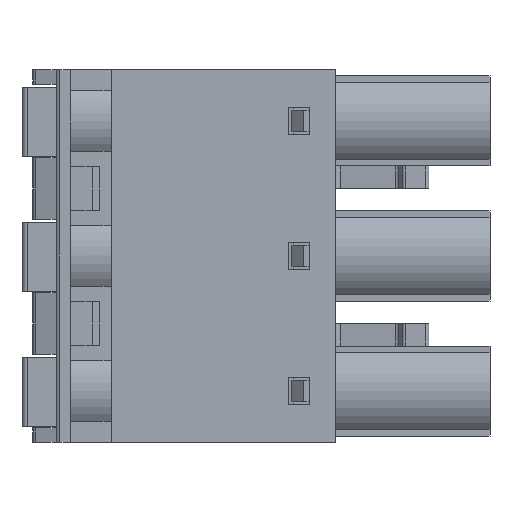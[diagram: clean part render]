
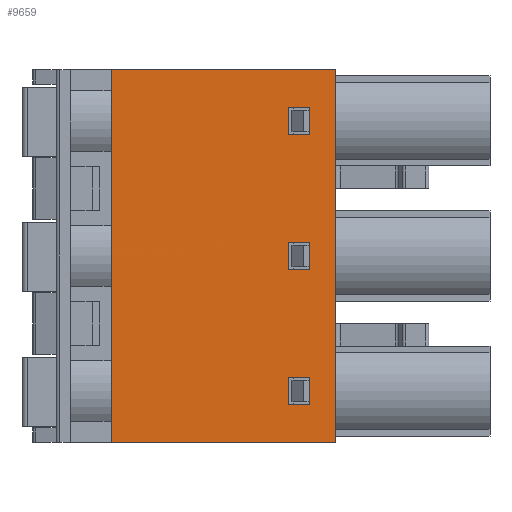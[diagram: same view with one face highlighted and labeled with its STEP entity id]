
A CAD part, left-side view. The second image highlights one B-rep face of the part: STEP entity #9659.
In plain terms, the highlighted planar face has unit normal (-1, 0, 0).
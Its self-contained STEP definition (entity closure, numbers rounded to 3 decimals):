
#412=DIRECTION('',(0.,1.,0.));
#413=VECTOR('',#412,12.45);
#414=CARTESIAN_POINT('',(-7.5,0.,32.85));
#415=LINE('',#414,#413);
#2345=CARTESIAN_POINT('',(-7.5,12.45,22.549));
#2346=CARTESIAN_POINT('',(-7.5,12.45,22.543));
#2347=CARTESIAN_POINT('',(-7.5,12.45,22.534));
#2348=CARTESIAN_POINT('',(-7.5,12.45,22.517));
#2349=CARTESIAN_POINT('',(-7.5,12.45,22.506));
#2350=CARTESIAN_POINT('',(-7.5,12.45,22.5));
#2509=DIRECTION('',(0.,-1.,0.));
#2510=VECTOR('',#2509,1.2);
#2511=CARTESIAN_POINT('',(-7.5,2.6,15.75));
#2512=LINE('',#2511,#2510);
#2525=DIRECTION('',(0.,0.,-1.));
#2526=VECTOR('',#2525,20.7);
#2527=CARTESIAN_POINT('',(-7.5,0.,32.85));
#2528=LINE('',#2527,#2526);
#2529=DIRECTION('',(0.,1.,0.));
#2530=VECTOR('',#2529,12.45);
#2531=CARTESIAN_POINT('',(-7.5,0.,12.15));
#2532=LINE('',#2531,#2530);
#2533=DIRECTION('',(0.,0.,1.));
#2534=VECTOR('',#2533,7.5);
#2535=CARTESIAN_POINT('',(-7.5,12.45,15.));
#2536=LINE('',#2535,#2534);
#2537=DIRECTION('',(0.,0.,1.));
#2538=VECTOR('',#2537,7.451);
#2539=CARTESIAN_POINT('',(-7.5,12.45,22.549));
#2540=LINE('',#2539,#2538);
#2541=DIRECTION('',(0.,0.,-1.));
#2542=VECTOR('',#2541,1.5);
#2543=CARTESIAN_POINT('',(-7.5,2.6,23.25));
#2544=LINE('',#2543,#2542);
#2545=DIRECTION('',(0.,-1.,0.));
#2546=VECTOR('',#2545,1.2);
#2547=CARTESIAN_POINT('',(-7.5,2.6,21.75));
#2548=LINE('',#2547,#2546);
#2549=DIRECTION('',(0.,0.,1.));
#2550=VECTOR('',#2549,1.5);
#2551=CARTESIAN_POINT('',(-7.5,1.4,21.75));
#2552=LINE('',#2551,#2550);
#2553=DIRECTION('',(0.,0.,-1.));
#2554=VECTOR('',#2553,1.5);
#2555=CARTESIAN_POINT('',(-7.5,2.6,15.75));
#2556=LINE('',#2555,#2554);
#2557=DIRECTION('',(0.,-1.,0.));
#2558=VECTOR('',#2557,1.2);
#2559=CARTESIAN_POINT('',(-7.5,2.6,14.25));
#2560=LINE('',#2559,#2558);
#2561=DIRECTION('',(0.,0.,-1.));
#2562=VECTOR('',#2561,1.5);
#2563=CARTESIAN_POINT('',(-7.5,2.6,30.75));
#2564=LINE('',#2563,#2562);
#2565=DIRECTION('',(0.,-1.,0.));
#2566=VECTOR('',#2565,1.2);
#2567=CARTESIAN_POINT('',(-7.5,2.6,29.25));
#2568=LINE('',#2567,#2566);
#2578=DIRECTION('',(0.,0.,-1.));
#2579=VECTOR('',#2578,2.85);
#2580=CARTESIAN_POINT('',(-7.5,12.45,15.));
#2581=LINE('',#2580,#2579);
#2779=DIRECTION('',(0.,0.,-1.));
#2780=VECTOR('',#2779,2.85);
#2781=CARTESIAN_POINT('',(-7.5,12.45,32.85));
#2782=LINE('',#2781,#2780);
#2849=DIRECTION('',(0.,-1.,0.));
#2850=VECTOR('',#2849,1.2);
#2851=CARTESIAN_POINT('',(-7.5,2.6,23.25));
#2852=LINE('',#2851,#2850);
#2865=DIRECTION('',(0.,0.,-1.));
#2866=VECTOR('',#2865,1.5);
#2867=CARTESIAN_POINT('',(-7.5,1.4,15.75));
#2868=LINE('',#2867,#2866);
#2873=DIRECTION('',(0.,-1.,0.));
#2874=VECTOR('',#2873,1.2);
#2875=CARTESIAN_POINT('',(-7.5,2.6,30.75));
#2876=LINE('',#2875,#2874);
#2913=DIRECTION('',(0.,0.,-1.));
#2914=VECTOR('',#2913,1.5);
#2915=CARTESIAN_POINT('',(-7.5,1.4,30.75));
#2916=LINE('',#2915,#2914);
#4529=CARTESIAN_POINT('',(-7.5,2.6,14.25));
#4530=CARTESIAN_POINT('',(-7.5,1.4,14.25));
#4531=VERTEX_POINT('',#4529);
#4532=VERTEX_POINT('',#4530);
#4533=CARTESIAN_POINT('',(-7.5,0.,32.85));
#4534=CARTESIAN_POINT('',(-7.5,0.,12.15));
#4535=VERTEX_POINT('',#4533);
#4536=VERTEX_POINT('',#4534);
#4537=CARTESIAN_POINT('',(-7.5,12.45,12.15));
#4538=VERTEX_POINT('',#4537);
#4539=CARTESIAN_POINT('',(-7.5,12.45,15.));
#4540=VERTEX_POINT('',#4539);
#4541=CARTESIAN_POINT('',(-7.5,12.45,22.5));
#4542=VERTEX_POINT('',#4541);
#4543=VERTEX_POINT('',#2345);
#4544=CARTESIAN_POINT('',(-7.5,12.45,30.));
#4545=VERTEX_POINT('',#4544);
#4546=CARTESIAN_POINT('',(-7.5,12.45,32.85));
#4547=VERTEX_POINT('',#4546);
#4548=CARTESIAN_POINT('',(-7.5,2.6,23.25));
#4549=CARTESIAN_POINT('',(-7.5,2.6,21.75));
#4550=VERTEX_POINT('',#4548);
#4551=VERTEX_POINT('',#4549);
#4552=CARTESIAN_POINT('',(-7.5,1.4,21.75));
#4553=VERTEX_POINT('',#4552);
#4554=CARTESIAN_POINT('',(-7.5,1.4,23.25));
#4555=VERTEX_POINT('',#4554);
#4556=CARTESIAN_POINT('',(-7.5,2.6,15.75));
#4557=CARTESIAN_POINT('',(-7.5,1.4,15.75));
#4558=VERTEX_POINT('',#4556);
#4559=VERTEX_POINT('',#4557);
#4560=CARTESIAN_POINT('',(-7.5,2.6,30.75));
#4561=CARTESIAN_POINT('',(-7.5,1.4,30.75));
#4562=VERTEX_POINT('',#4560);
#4563=VERTEX_POINT('',#4561);
#4564=CARTESIAN_POINT('',(-7.5,2.6,29.25));
#4565=VERTEX_POINT('',#4564);
#4566=CARTESIAN_POINT('',(-7.5,1.4,29.25));
#4567=VERTEX_POINT('',#4566);
#9614=CARTESIAN_POINT('',(-7.5,15.5,-3.75));
#9615=DIRECTION('',(-1.,0.,0.));
#9616=DIRECTION('',(0.,-1.,0.));
#9617=AXIS2_PLACEMENT_3D('',#9614,#9615,#9616);
#9618=PLANE('',#9617);
#9619=ORIENTED_EDGE('',*,*,#6426,.T.);
#9620=ORIENTED_EDGE('',*,*,#6561,.T.);
#9622=ORIENTED_EDGE('',*,*,#9621,.F.);
#9624=ORIENTED_EDGE('',*,*,#9623,.T.);
#9625=ORIENTED_EDGE('',*,*,#9265,.F.);
#9626=ORIENTED_EDGE('',*,*,#9290,.T.);
#9628=ORIENTED_EDGE('',*,*,#9627,.F.);
#9629=ORIENTED_EDGE('',*,*,#6362,.F.);
#9630=EDGE_LOOP('',(#9619,#9620,#9622,#9624,#9625,#9626,#9628,#9629));
#9631=FACE_OUTER_BOUND('',#9630,.F.);
#9633=ORIENTED_EDGE('',*,*,#9632,.T.);
#9635=ORIENTED_EDGE('',*,*,#9634,.T.);
#9637=ORIENTED_EDGE('',*,*,#9636,.T.);
#9639=ORIENTED_EDGE('',*,*,#9638,.F.);
#9640=EDGE_LOOP('',(#9633,#9635,#9637,#9639));
#9641=FACE_BOUND('',#9640,.F.);
#9642=ORIENTED_EDGE('',*,*,#9593,.F.);
#9643=ORIENTED_EDGE('',*,*,#9608,.T.);
#9644=ORIENTED_EDGE('',*,*,#9443,.T.);
#9646=ORIENTED_EDGE('',*,*,#9645,.F.);
#9647=EDGE_LOOP('',(#9642,#9643,#9644,#9646));
#9648=FACE_BOUND('',#9647,.F.);
#9650=ORIENTED_EDGE('',*,*,#9649,.F.);
#9652=ORIENTED_EDGE('',*,*,#9651,.T.);
#9654=ORIENTED_EDGE('',*,*,#9653,.T.);
#9656=ORIENTED_EDGE('',*,*,#9655,.F.);
#9657=EDGE_LOOP('',(#9650,#9652,#9654,#9656));
#9658=FACE_BOUND('',#9657,.F.);
#9659=ADVANCED_FACE('',(#9631,#9641,#9648,#9658),#9618,.T.);
#2351=B_SPLINE_CURVE_WITH_KNOTS('',3,(#2345,#2346,#2347,#2348,#2349,#2350),
.UNSPECIFIED.,.F.,.F.,(4,1,1,4),(0.,0.333,0.667,1.),
.UNSPECIFIED.);
#6362=EDGE_CURVE('',#4535,#4547,#415,.T.);
#6426=EDGE_CURVE('',#4535,#4536,#2528,.T.);
#6561=EDGE_CURVE('',#4536,#4538,#2532,.T.);
#9265=EDGE_CURVE('',#4543,#4542,#2351,.T.);
#9290=EDGE_CURVE('',#4543,#4545,#2540,.T.);
#9443=EDGE_CURVE('',#4531,#4532,#2560,.T.);
#9593=EDGE_CURVE('',#4558,#4559,#2512,.T.);
#9608=EDGE_CURVE('',#4558,#4531,#2556,.T.);
#9621=EDGE_CURVE('',#4540,#4538,#2581,.T.);
#9623=EDGE_CURVE('',#4540,#4542,#2536,.T.);
#9627=EDGE_CURVE('',#4547,#4545,#2782,.T.);
#9632=EDGE_CURVE('',#4550,#4551,#2544,.T.);
#9634=EDGE_CURVE('',#4551,#4553,#2548,.T.);
#9636=EDGE_CURVE('',#4553,#4555,#2552,.T.);
#9638=EDGE_CURVE('',#4550,#4555,#2852,.T.);
#9645=EDGE_CURVE('',#4559,#4532,#2868,.T.);
#9649=EDGE_CURVE('',#4562,#4563,#2876,.T.);
#9651=EDGE_CURVE('',#4562,#4565,#2564,.T.);
#9653=EDGE_CURVE('',#4565,#4567,#2568,.T.);
#9655=EDGE_CURVE('',#4563,#4567,#2916,.T.);
